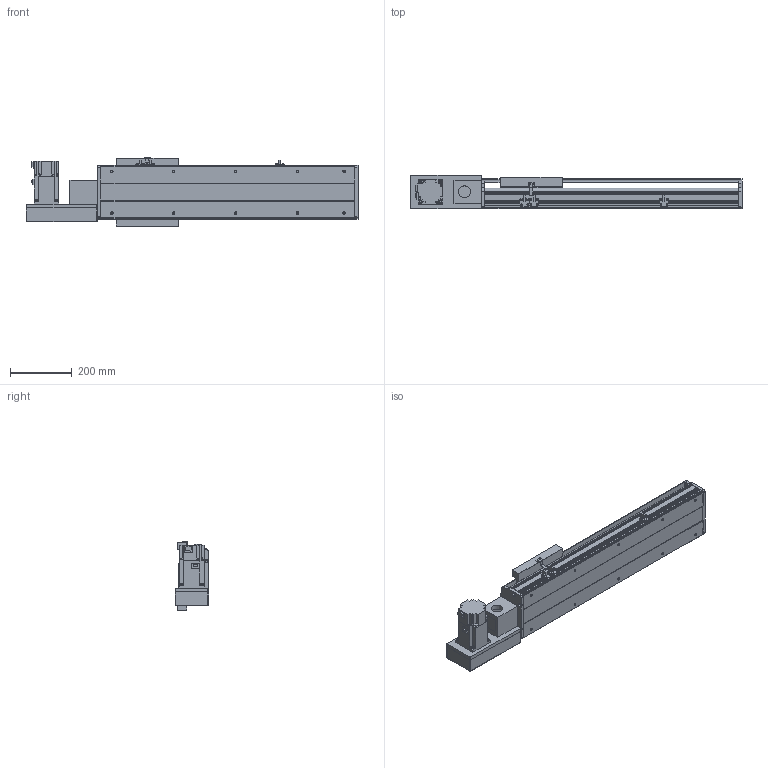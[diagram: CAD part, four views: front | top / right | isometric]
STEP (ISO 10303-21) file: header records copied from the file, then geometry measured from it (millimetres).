
FILE_DESCRIPTION(/* description */ ('STEP AP214'),/* implementation_level */ '2;1');
FILE_NAME(/* name */ 'PBS200-P40-S450-L-T75-C1-N(0)',/* time_stamp */ '2022-06-11T07:47:58+02:00',/* author */ ('License CC BY-ND 4.0'),/* organization */ ('CADENAS'),/* preprocessor_version */ 'ST-DEVELOPER v18.102',/* originating_system */ 'PARTsolutions',/* authorisation */ ' ');
FILE_SCHEMA (('AUTOMOTIVE_DESIGN {1 0 10303 214 3 1 1}'));
Length unit declared in the file: millimetre
Products named in the file (7): PBS200-P40-S450-L-T75-C1-N(0); PBS200_sensor; PBS200_plant; PBS200_sliser; T75-p1; PBS200T-L_motors; PBS200-S450()_body
Assembly tree (8 placements, depth 2):
  PBS200-P40-S450-L-T75-C1-N(0)
    PBS200_sensor  x3
    PBS200_plant
    PBS200_sliser
    T75-p1
    PBS200T-L_motors
    PBS200-S450()_body
Bounding box: 1072 x 109 x 221 mm (x, y, z)
Volume: 7802965.9 mm3; surface area: 1277988.9 mm2
Topology: 8 solids, 8 shells, 902 faces, 2344 edges, 1530 vertices
Faces by surface type: plane 568, cylinder 292, cone 42
Full cylindrical faces by diameter (mm): 2.459 x6, 3.242 x4, 4.5 x6, 4.917 x4, 5 x6, 6 x7, 6.6 x8, 6.647 x14, 8 x6, 10 x4, 12 x8, 38 x2, 40 x1, 70 x1
Entity records: 24221 total; most frequent: DIRECTION 4255, CARTESIAN_POINT 4138, ORIENTED_EDGE 3946, EDGE_CURVE 1973, AXIS2_PLACEMENT_3D 1471, VERTEX_POINT 1354, LINE 1313, VECTOR 1313
